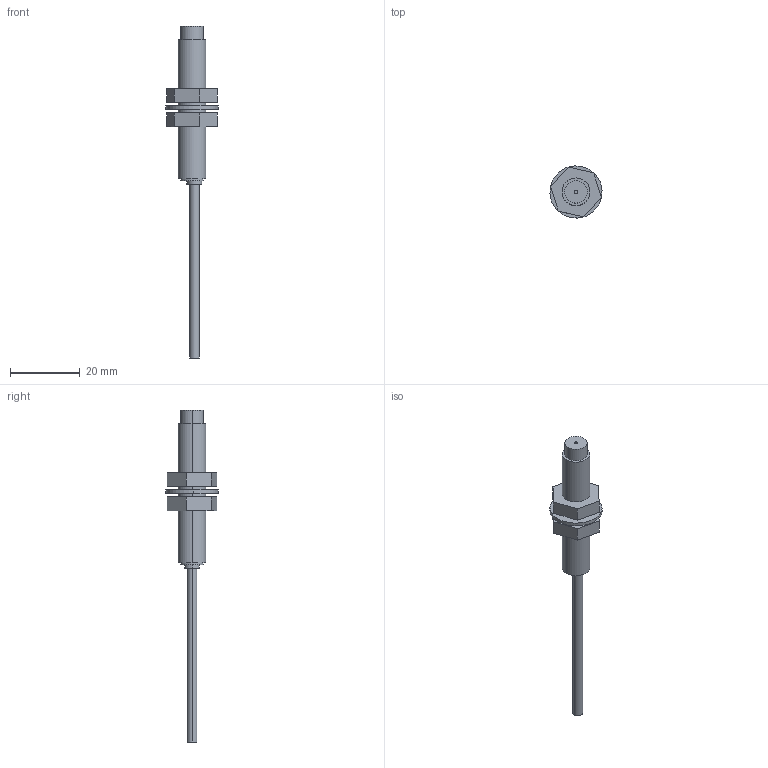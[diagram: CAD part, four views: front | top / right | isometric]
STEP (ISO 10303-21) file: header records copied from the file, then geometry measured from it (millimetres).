
FILE_DESCRIPTION (( 'STEP AP203' ), '1' );
FILE_NAME ('gx-108ml.STEP', '2017-05-18T00:46:09', ( '' ), ( '' ), 'SwSTEP 2.0', 'SolidWorks 2014', '' );
FILE_SCHEMA (( 'CONFIG_CONTROL_DESIGN' ));
Length unit declared in the file: millimetre
Products named in the file (4): gx-108ml dianpian_1; gx-108ml luomu_1; gx-108ml benti_1; gx-108ml
Assembly tree (4 placements, depth 2):
  gx-108ml
    gx-108ml benti_1
    gx-108ml dianpian_1
    gx-108ml luomu_1  x2
Bounding box: 14.98 x 14.98 x 95.5 mm (x, y, z)
Volume: 3377.7 mm3; surface area: 2923.6 mm2
Topology: 4 solids, 4 shells, 57 faces, 120 edges, 80 vertices
Faces by surface type: plane 29, cylinder 28
Entity records: 1716 total; most frequent: DIRECTION 256, CARTESIAN_POINT 214, ORIENTED_EDGE 192, AXIS2_PLACEMENT_3D 106, EDGE_CURVE 96, VERTEX_POINT 64, EDGE_LOOP 60, CIRCLE 52
